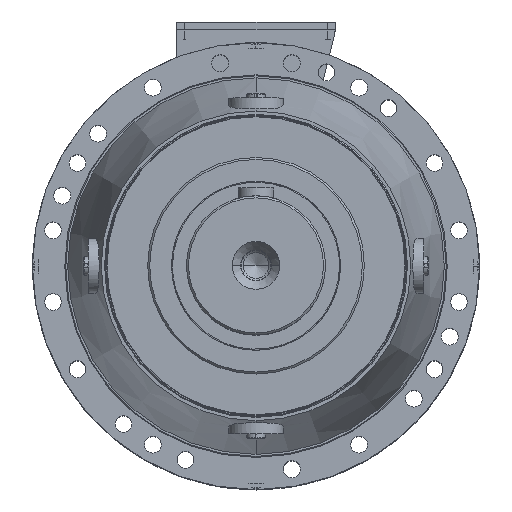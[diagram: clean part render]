
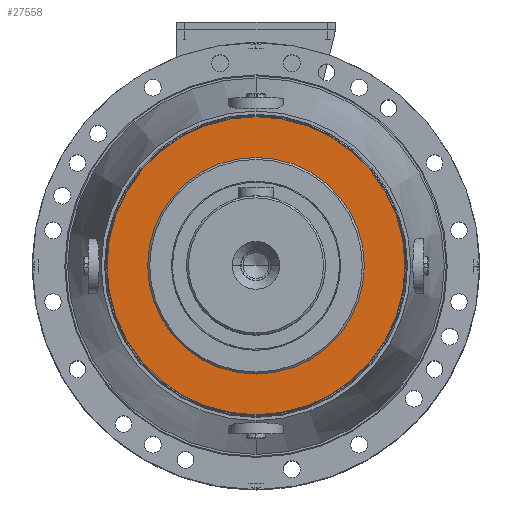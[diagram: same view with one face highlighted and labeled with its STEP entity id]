
A CAD part, top view. The second image highlights one B-rep face of the part: STEP entity #27558.
In plain terms, the highlighted planar face has unit normal (0, 0, 1).
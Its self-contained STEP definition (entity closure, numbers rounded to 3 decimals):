
#19571 = EDGE_CURVE ( 'NONE', #32186, #32357, #142113, .T. ) ;
#19604 = EDGE_CURVE ( 'NONE', #32357, #32186, #142137, .T. ) ;
#19634 = EDGE_CURVE ( 'NONE', #32391, #32461, #142222, .T. ) ;
#19729 = EDGE_CURVE ( 'NONE', #32461, #32391, #142265, .T. ) ;
#21105 = PLANE ( 'NONE',  #105927 ) ;
#21188 = DIRECTION ( 'NONE',  ( 0., 1., 0. ) ) ;
#21224 = CARTESIAN_POINT ( 'NONE',  ( 0., 150., 220. ) ) ;
#21227 = DIRECTION ( 'NONE',  ( 0., 0., -1. ) ) ;
#26820 = CARTESIAN_POINT ( 'NONE',  ( 0., -150., 220. ) ) ;
#26894 = CARTESIAN_POINT ( 'NONE',  ( 0., 109., 220. ) ) ;
#26930 = CARTESIAN_POINT ( 'NONE',  ( 0., 150., 220. ) ) ;
#26965 = CARTESIAN_POINT ( 'NONE',  ( 0., -109., 220. ) ) ;
#27558 = ADVANCED_FACE ( 'NONE', ( #128808, #128768 ), #21105, .F. ) ;
#32186 = VERTEX_POINT ( 'NONE', #26820 ) ;
#32357 = VERTEX_POINT ( 'NONE', #26930 ) ;
#32391 = VERTEX_POINT ( 'NONE', #26965 ) ;
#32461 = VERTEX_POINT ( 'NONE', #26894 ) ;
#37942 = ORIENTED_EDGE ( 'NONE', *, *, #19571, .F. ) ;
#37979 = ORIENTED_EDGE ( 'NONE', *, *, #19604, .F. ) ;
#38010 = ORIENTED_EDGE ( 'NONE', *, *, #19729, .F. ) ;
#38037 = ORIENTED_EDGE ( 'NONE', *, *, #19634, .F. ) ;
#102718 = AXIS2_PLACEMENT_3D ( 'NONE', #143769, #143766, #143758 ) ;
#102727 = AXIS2_PLACEMENT_3D ( 'NONE', #143808, #143794, #143793 ) ;
#102804 = AXIS2_PLACEMENT_3D ( 'NONE', #143946, #143950, #143938 ) ;
#102816 = AXIS2_PLACEMENT_3D ( 'NONE', #143868, #143830, #143835 ) ;
#105927 = AXIS2_PLACEMENT_3D ( 'NONE', #21224, #21227, #21188 ) ;
#128768 = FACE_OUTER_BOUND ( 'NONE', #137970, .T. ) ;
#128808 = FACE_BOUND ( 'NONE', #138212, .T. ) ;
#137970 = EDGE_LOOP ( 'NONE', ( #37979, #37942 ) ) ;
#138212 = EDGE_LOOP ( 'NONE', ( #38010, #38037 ) ) ;
#142113 = CIRCLE ( 'NONE', #102718, 150. ) ;
#142137 = CIRCLE ( 'NONE', #102727, 150. ) ;
#142222 = CIRCLE ( 'NONE', #102816, 109. ) ;
#142265 = CIRCLE ( 'NONE', #102804, 109. ) ;
#143758 = DIRECTION ( 'NONE',  ( 0., 1., 0. ) ) ;
#143766 = DIRECTION ( 'NONE',  ( 0., 0., -1. ) ) ;
#143769 = CARTESIAN_POINT ( 'NONE',  ( 0., 0., 220. ) ) ;
#143793 = DIRECTION ( 'NONE',  ( 0., 1., 0. ) ) ;
#143794 = DIRECTION ( 'NONE',  ( 0., 0., -1. ) ) ;
#143808 = CARTESIAN_POINT ( 'NONE',  ( 0., 0., 220. ) ) ;
#143830 = DIRECTION ( 'NONE',  ( 0., 0., 1. ) ) ;
#143835 = DIRECTION ( 'NONE',  ( 0., 1., 0. ) ) ;
#143868 = CARTESIAN_POINT ( 'NONE',  ( 0., 0., 220. ) ) ;
#143938 = DIRECTION ( 'NONE',  ( 0., 1., 0. ) ) ;
#143946 = CARTESIAN_POINT ( 'NONE',  ( 0., 0., 220. ) ) ;
#143950 = DIRECTION ( 'NONE',  ( 0., 0., 1. ) ) ;
